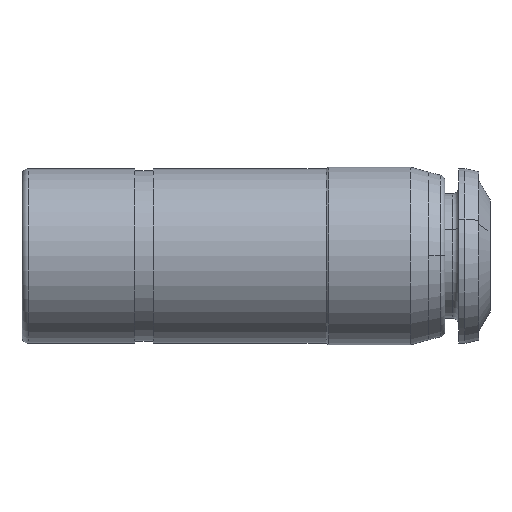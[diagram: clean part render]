
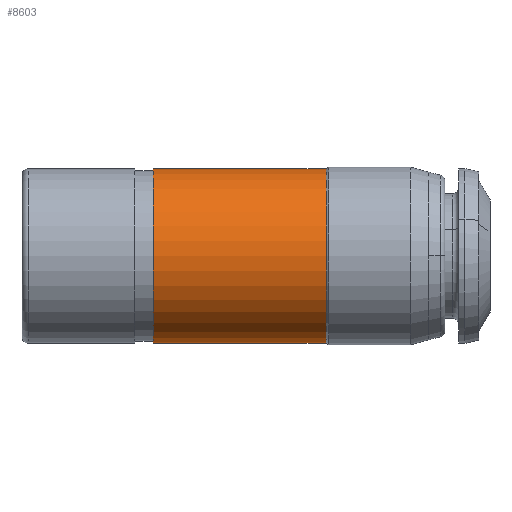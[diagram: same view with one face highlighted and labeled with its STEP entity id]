
A CAD part, top view. The second image highlights one B-rep face of the part: STEP entity #8603.
In plain terms, the highlighted cylindrical face has radius 6.975 mm (diameter 13.95 mm), a partial arc.
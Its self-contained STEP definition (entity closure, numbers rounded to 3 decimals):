
#99 = CARTESIAN_POINT ( 'NONE',  ( 24.3, -6.975, 0. ) ) ;
#136 = EDGE_CURVE ( 'NONE', #7703, #3319, #277, .T. ) ;
#178 = ORIENTED_EDGE ( 'NONE', *, *, #11415, .T. ) ;
#240 = DIRECTION ( 'NONE',  ( -1., 0., 0. ) ) ;
#273 = AXIS2_PLACEMENT_3D ( 'NONE', #7278, #2465, #601 ) ;
#277 = CIRCLE ( 'NONE', #7070, 6.975 ) ;
#601 = DIRECTION ( 'NONE',  ( 0., -1., 0. ) ) ;
#892 = CARTESIAN_POINT ( 'NONE',  ( 10.5, -6.975, 0. ) ) ;
#2306 = ORIENTED_EDGE ( 'NONE', *, *, #11386, .F. ) ;
#2465 = DIRECTION ( 'NONE',  ( -1., 0., 0. ) ) ;
#2949 = CARTESIAN_POINT ( 'NONE',  ( 24.3, 6.975, 0. ) ) ;
#2978 = CARTESIAN_POINT ( 'NONE',  ( 17., 6.975, 0. ) ) ;
#3319 = VERTEX_POINT ( 'NONE', #11028 ) ;
#3965 = DIRECTION ( 'NONE',  ( -1., 0., 0. ) ) ;
#4585 = AXIS2_PLACEMENT_3D ( 'NONE', #5999, #240, #6966 ) ;
#4847 = FACE_OUTER_BOUND ( 'NONE', #8882, .T. ) ;
#5059 = EDGE_CURVE ( 'NONE', #11777, #10942, #6121, .T. ) ;
#5916 = DIRECTION ( 'NONE',  ( -1., 0., 0. ) ) ;
#5999 = CARTESIAN_POINT ( 'NONE',  ( 24.3, 0., 0. ) ) ;
#6121 = CIRCLE ( 'NONE', #4585, 6.975 ) ;
#6364 = VECTOR ( 'NONE', #5916, 1000. ) ;
#6873 = DIRECTION ( 'NONE',  ( 0., -1., 0. ) ) ;
#6966 = DIRECTION ( 'NONE',  ( 0., -1., 0. ) ) ;
#7070 = AXIS2_PLACEMENT_3D ( 'NONE', #8762, #12248, #6873 ) ;
#7278 = CARTESIAN_POINT ( 'NONE',  ( 17., 0., 0. ) ) ;
#7703 = VERTEX_POINT ( 'NONE', #892 ) ;
#7731 = ORIENTED_EDGE ( 'NONE', *, *, #136, .F. ) ;
#8603 = ADVANCED_FACE ( 'NONE', ( #4847 ), #8724, .T. ) ;
#8724 = CYLINDRICAL_SURFACE ( 'NONE', #273, 6.975 ) ;
#8762 = CARTESIAN_POINT ( 'NONE',  ( 10.5, 0., 0. ) ) ;
#8882 = EDGE_LOOP ( 'NONE', ( #10065, #178, #7731, #2306 ) ) ;
#9215 = LINE ( 'NONE', #11577, #11410 ) ;
#10065 = ORIENTED_EDGE ( 'NONE', *, *, #5059, .T. ) ;
#10942 = VERTEX_POINT ( 'NONE', #2949 ) ;
#11028 = CARTESIAN_POINT ( 'NONE',  ( 10.5, 6.975, 0. ) ) ;
#11386 = EDGE_CURVE ( 'NONE', #11777, #7703, #9215, .T. ) ;
#11410 = VECTOR ( 'NONE', #3965, 1000. ) ;
#11415 = EDGE_CURVE ( 'NONE', #10942, #3319, #11686, .T. ) ;
#11577 = CARTESIAN_POINT ( 'NONE',  ( 17., -6.975, 0. ) ) ;
#11686 = LINE ( 'NONE', #2978, #6364 ) ;
#11777 = VERTEX_POINT ( 'NONE', #99 ) ;
#12248 = DIRECTION ( 'NONE',  ( -1., 0., 0. ) ) ;
